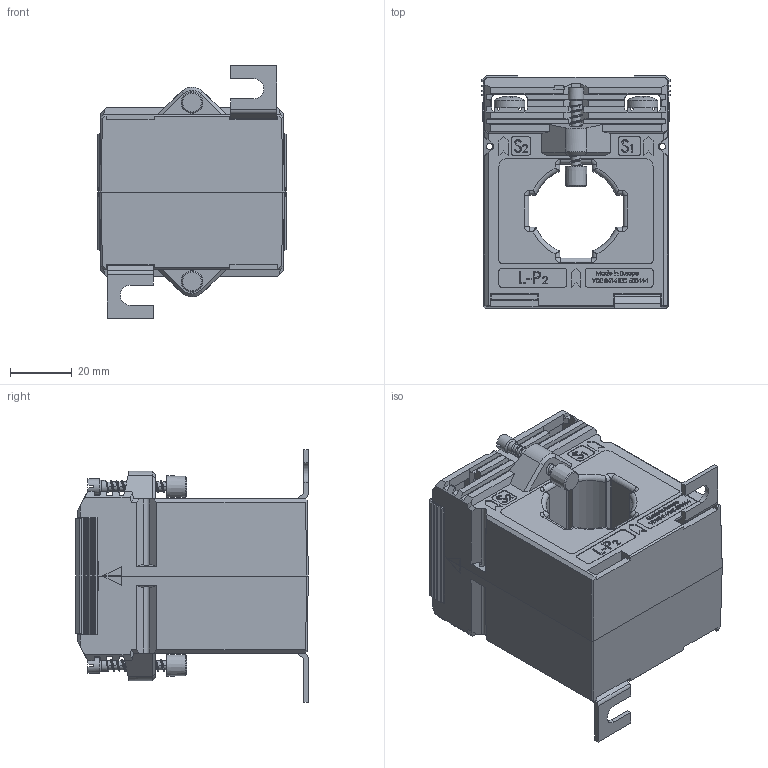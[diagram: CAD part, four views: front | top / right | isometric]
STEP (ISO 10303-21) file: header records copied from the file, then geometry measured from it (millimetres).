
FILE_DESCRIPTION(/* description */ (''),/* implementation_level */ '2;1');
FILE_NAME(/* name */ 'ASK31.5.stp',/* time_stamp */ '2024-03-04T10:59:35+01:00',/* author */ ('JDI'),/* organization */ (''),/* preprocessor_version */ 'ST-DEVELOPER v19.2',/* originating_system */ 'Autodesk Inventor 2023',/* authorisation */ '');
FILE_SCHEMA (('AUTOMOTIVE_DESIGN { 1 0 10303 214 3 1 1 }'));
Products named in the file (1): ASK31.5
Bounding box: 61 x 75.5 x 82 mm (x, y, z)
Volume: 173613.3 mm3; surface area: 42367.6 mm2
Topology: 1 solids, 1 shells, 1977 faces, 5306 edges, 3386 vertices
Faces by surface type: plane 1379, bspline 342, cylinder 176, cone 44, torus 28, sphere 8
Full cylindrical faces by diameter (mm): 3 x28, 3.8 x4, 4 x12, 4.1 x2, 5 x2, 10 x4
Entity records: 86560 total; most frequent: CARTESIAN_POINT 37560, ORIENTED_EDGE 10580, DIRECTION 8212, EDGE_CURVE 5290, LINE 3944, VECTOR 3944, VERTEX_POINT 3386, AXIS2_PLACEMENT_3D 2134
